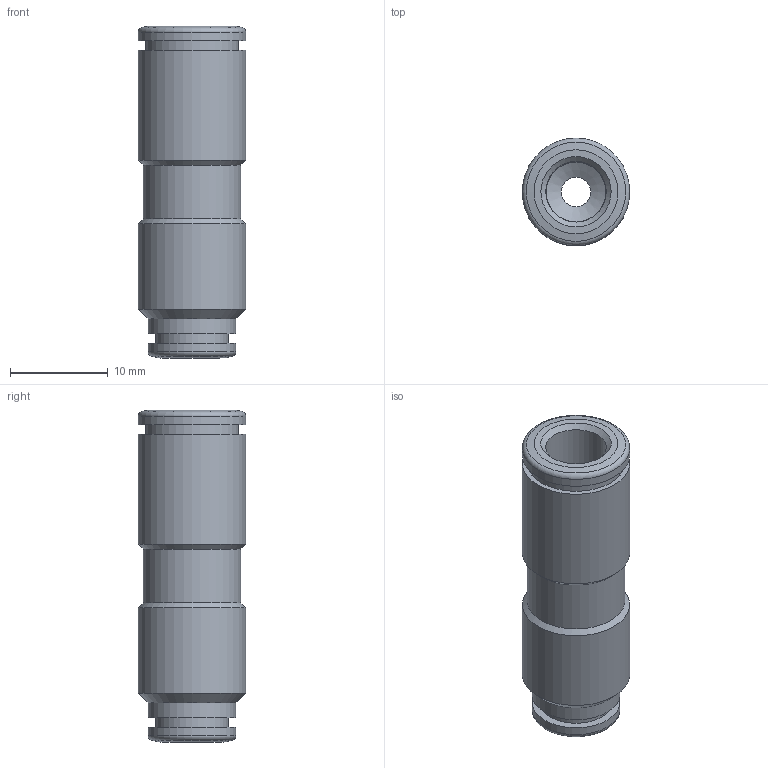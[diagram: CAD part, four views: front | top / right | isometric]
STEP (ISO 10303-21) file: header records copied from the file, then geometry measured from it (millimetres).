
FILE_DESCRIPTION(/* description */ (''),/* implementation_level */ '2;1');
FILE_NAME(/* name */ 'V200308_IPSO_03_6-4_06.09.16',/* time_stamp */ '2016-09-06T11:30:15+02:00',/* author */ (''),/* organization */ (''),/* preprocessor_version */ 'ST-DEVELOPER v16.5',/* originating_system */ 'HiCAD 2016 2101.0 Build 254',/* authorisation */ '');
FILE_SCHEMA (('AUTOMOTIVE_DESIGN { 1 0 10303 214 1 1 1 1 }'));
Length unit declared in the file: millimetre
Products named in the file (4): Root; R200308-i1; DR4-1_NEU; DR6-1_NEU
Assembly tree (3 placements, depth 2):
  Root
    R200308-i1
    DR4-1_NEU
    DR6-1_NEU
Bounding box: 11 x 11 x 34 mm (x, y, z)
Volume: 1898.7 mm3; surface area: 2673.9 mm2
Topology: 3 solids, 3 shells, 50 faces, 93 edges, 53 vertices
Faces by surface type: cylinder 19, cone 19, plane 10, torus 2
Full cylindrical faces by diameter (mm): 3 x1, 4.1 x2, 6.1 x1, 6.2 x1, 6.4 x1, 7.3 x1, 7.4 x1, 7.6 x1, 8.3 x1, 9 x3, 9.5 x1, 9.6 x1, 10 x1, 11 x3
Entity records: 1598 total; most frequent: DIRECTION 212, CARTESIAN_POINT 156, AXIS2_PLACEMENT_3D 106, PRESENTATION_STYLE_ASSIGNMENT 103, COLOUR_RGB 101, DRAUGHTING_PRE_DEFINED_CURVE_FONT 100, CURVE_STYLE 100, OVER_RIDING_STYLED_ITEM 100
